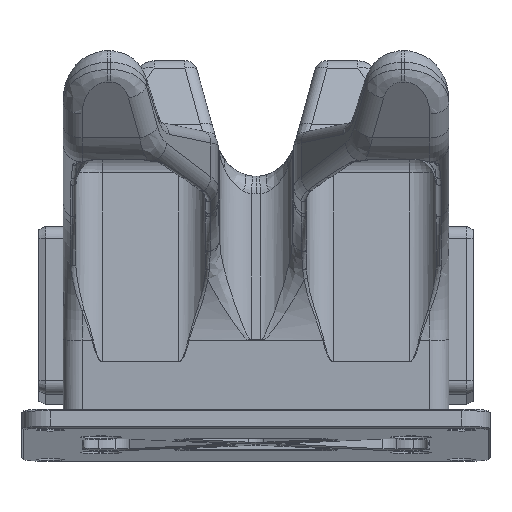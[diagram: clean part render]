
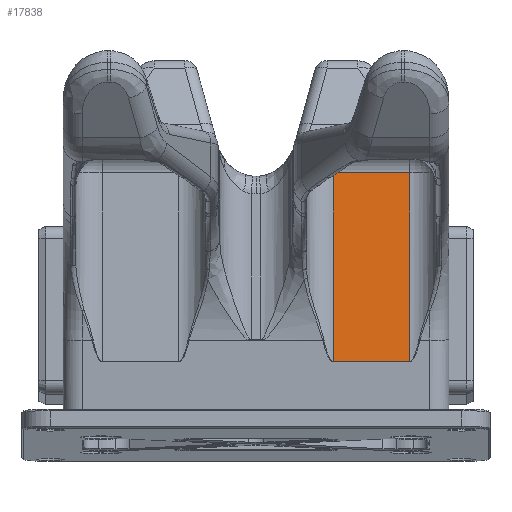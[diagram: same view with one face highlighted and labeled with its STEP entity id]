
A CAD part, top view. The second image highlights one B-rep face of the part: STEP entity #17838.
In plain terms, the highlighted planar face has unit normal (0, 0.07, 0.998) as drawn and (0, 0, 1) by its records, which use the part's own axes.
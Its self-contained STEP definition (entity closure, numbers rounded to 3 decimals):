
#3446 = CARTESIAN_POINT ( 'NONE',  ( 12.2, 16.332, 50.5 ) ) ;
#3869 = LINE ( 'NONE', #10892, #23800 ) ;
#4036 = DIRECTION ( 'NONE',  ( 0., 0., 1. ) ) ;
#8061 = EDGE_CURVE ( 'NONE', #72784, #47635, #3869, .T. ) ;
#9293 = VERTEX_POINT ( 'NONE', #17148 ) ;
#10892 = CARTESIAN_POINT ( 'NONE',  ( 12.2, 73.727, 50.5 ) ) ;
#11228 = CARTESIAN_POINT ( 'NONE',  ( 12.2, -13.548, 50.5 ) ) ;
#13253 = AXIS2_PLACEMENT_3D ( 'NONE', #64232, #4036, #84432 ) ;
#13438 = LINE ( 'NONE', #80673, #71886 ) ;
#17148 = CARTESIAN_POINT ( 'NONE',  ( 24.3, 16.332, 50.5 ) ) ;
#17838 = ADVANCED_FACE ( 'NONE', ( #50637 ), #37452, .T. ) ;
#17840 = CARTESIAN_POINT ( 'NONE',  ( 24.3, -13.548, 50.5 ) ) ;
#18956 = CARTESIAN_POINT ( 'NONE',  ( 24.3, 73.727, 50.5 ) ) ;
#21933 = LINE ( 'NONE', #3446, #39563 ) ;
#23800 = VECTOR ( 'NONE', #57489, 1000. ) ;
#24692 = LINE ( 'NONE', #18956, #67445 ) ;
#25905 = EDGE_CURVE ( 'NONE', #47635, #70458, #13438, .T. ) ;
#33033 = ORIENTED_EDGE ( 'NONE', *, *, #85521, .T. ) ;
#37452 = PLANE ( 'NONE',  #13253 ) ;
#39563 = VECTOR ( 'NONE', #75533, 1000. ) ;
#47635 = VERTEX_POINT ( 'NONE', #11228 ) ;
#50637 = FACE_OUTER_BOUND ( 'NONE', #84117, .T. ) ;
#57088 = CARTESIAN_POINT ( 'NONE',  ( 12.2, 16.332, 50.5 ) ) ;
#57489 = DIRECTION ( 'NONE',  ( 0., -1., 0. ) ) ;
#64232 = CARTESIAN_POINT ( 'NONE',  ( 24.3, 73.727, 50.5 ) ) ;
#67445 = VECTOR ( 'NONE', #78278, 1000. ) ;
#70458 = VERTEX_POINT ( 'NONE', #17840 ) ;
#71886 = VECTOR ( 'NONE', #81966, 1000. ) ;
#72578 = EDGE_CURVE ( 'NONE', #9293, #70458, #24692, .T. ) ;
#72784 = VERTEX_POINT ( 'NONE', #57088 ) ;
#74858 = ORIENTED_EDGE ( 'NONE', *, *, #72578, .F. ) ;
#75533 = DIRECTION ( 'NONE',  ( -1., 0., 0. ) ) ;
#76157 = ORIENTED_EDGE ( 'NONE', *, *, #8061, .T. ) ;
#78278 = DIRECTION ( 'NONE',  ( 0., -1., 0. ) ) ;
#78718 = ORIENTED_EDGE ( 'NONE', *, *, #25905, .T. ) ;
#80673 = CARTESIAN_POINT ( 'NONE',  ( 24.3, -13.548, 50.5 ) ) ;
#81966 = DIRECTION ( 'NONE',  ( 1., 0., 0. ) ) ;
#84117 = EDGE_LOOP ( 'NONE', ( #76157, #78718, #74858, #33033 ) ) ;
#84432 = DIRECTION ( 'NONE',  ( 1., 0., 0. ) ) ;
#85521 = EDGE_CURVE ( 'NONE', #9293, #72784, #21933, .T. ) ;
